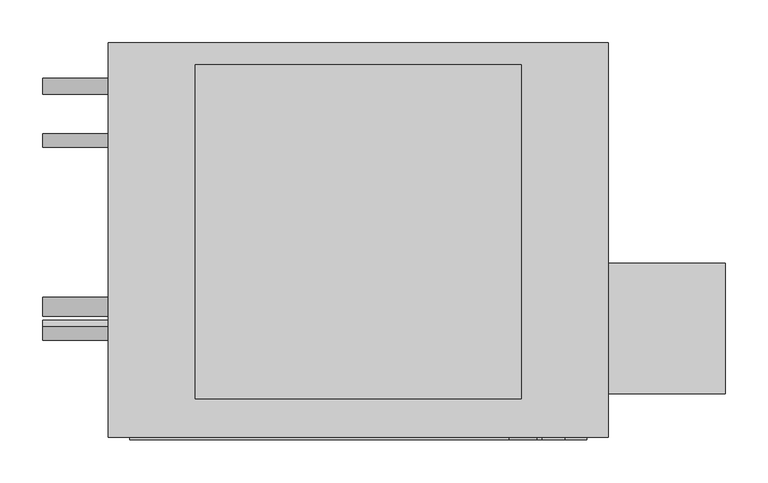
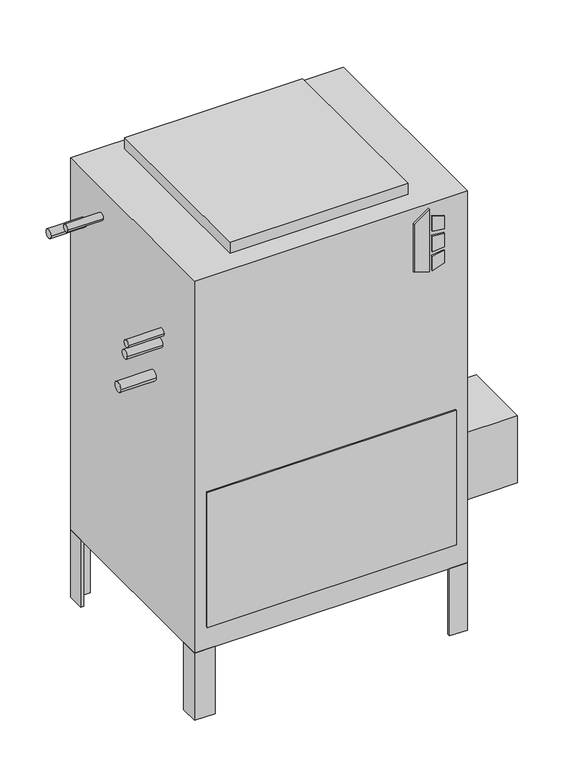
"""IFC4 building model written with IfcOpenShell, lengths in millimetres: proxy geometry, Concealed_High_Capacity_Vertical_Fan_Coil_Unit_-_VEY_-_IEC_-_4-Pipe_LH_2022 : Size 06 - 277v/60Hz/1Ph - 4/2 Coil."""

from ifc_helpers import new_model, si_unit, point, frame, frame_2d, origin, origin_with_axes, place, context, project, spatial, polyline, circle_curve, trimmed, segment, composite_curve, outline, extrude, source, transform, mapped, element, save


def mechanical_equipment_8127be51(model_context):
    return source(origin(), model_context, "Body", "SweptSolid", [
        extrude(outline(polyline([(698.9230703, 328.6868862), (688.975, 360.8602728), (831.1459244, 360.8602728), (808.1239183, 328.6868862), (698.9230703, 328.6868862)])), frame((0.0, -471.4875, 0.0), z_axis=(0.0, 1.0, 0.0), x_axis=(0.0, 0.0, 1.0)), (0.0, 0.0, 1.0), 3.175),
        extrude(outline(polyline([(777.9223557, 367.6186058), (774.7199632, 393.7), (803.9488042, 393.7), (812.0132193, 367.6186058), (777.9223557, 367.6186058)])), frame((0.0, -471.4875, 0.0), z_axis=(0.0, 1.0, 0.0), x_axis=(0.0, 0.0, 1.0)), (0.0, 0.0, 1.0), 3.175),
        extrude(outline(polyline([(726.0588288, 393.7), (722.3933279, 367.6186058), (688.975, 367.6186058), (697.6092372, 393.7), (726.0588288, 393.7)])), frame((0.0, -471.4875, 0.0), z_axis=(0.0, 1.0, 0.0), x_axis=(0.0, 0.0, 1.0)), (0.0, 0.0, 1.0), 3.175),
        extrude(outline(polyline([(765.3739903, 393.7), (767.6558166, 367.6186058), (731.7182681, 367.6186058), (734.4595331, 393.7), (765.3739903, 393.7)])), frame((0.0, -471.4875, 0.0), z_axis=(0.0, 1.0, 0.0), x_axis=(0.0, 0.0, 1.0)), (0.0, 0.0, 1.0), 3.175),
        extrude(outline(polyline([(581.025, -265.1125), (581.025, -417.5125), (444.5, -417.5125), (444.5, -265.1125), (581.025, -265.1125)])), frame((0.0, 0.0, 101.6), z_axis=(0.0, 0.0, 1.0), x_axis=(1.0, 0.0, 0.0)), (0.0, 0.0, 1.0), 152.4),
        extrude(outline(polyline([(444.5, -46.0375), (438.15, -46.0375), (438.15, -14.2875), (406.4, -14.2875), (406.4, -7.9375), (444.5, -7.9375), (444.5, -46.0375)])), frame((0.0, 0.0, -152.4), z_axis=(0.0, 0.0, 1.0), x_axis=(1.0, 0.0, 0.0)), (0.0, 0.0, 1.0), 152.4),
        extrude(outline(polyline([(-101.6, -7.9375), (-101.6, -14.2875), (-133.35, -14.2875), (-133.35, -46.0375), (-139.7, -46.0375), (-139.7, -7.9375), (-101.6, -7.9375)])), frame((0.0, 0.0, -152.4), z_axis=(0.0, 0.0, 1.0), x_axis=(1.0, 0.0, 0.0)), (0.0, 0.0, 1.0), 152.4),
        extrude(outline(polyline([(406.4, -468.3125), (406.4, -461.9625), (438.15, -461.9625), (438.15, -430.2125), (444.5, -430.2125), (444.5, -468.3125), (406.4, -468.3125)])), frame((0.0, 0.0, -152.4), z_axis=(0.0, 0.0, 1.0), x_axis=(1.0, 0.0, 0.0)), (0.0, 0.0, 1.0), 152.4),
        extrude(outline(polyline([(-139.7, -428.1199163), (-133.35, -428.1199163), (-133.35, -461.9625), (-96.2318533, -461.9625), (-96.2318533, -468.3125), (-139.7, -468.3125), (-139.7, -428.1199163)])), frame((0.0, 0.0, -152.4), z_axis=(0.0, 0.0, 1.0), x_axis=(1.0, 0.0, 0.0)), (0.0, 0.0, 1.0), 152.4),
        extrude(outline(polyline([(342.9, -33.3375), (342.9, -423.8625), (-38.1, -423.8625), (-38.1, -33.3375), (342.9, -33.3375)])), frame((0.0, 0.0, 841.375), z_axis=(0.0, 0.0, 1.0), x_axis=(1.0, 0.0, 0.0)), (0.0, 0.0, 1.0), 25.4),
        extrude(outline(polyline([(419.1, -471.4875), (-114.3, -471.4875), (-114.3, -468.3125), (419.1, -468.3125), (419.1, -471.4875)])), frame((0.0, 0.0, 50.8), z_axis=(0.0, 0.0, 1.0), x_axis=(1.0, 0.0, 0.0)), (0.0, 0.0, 1.0), 304.8),
        extrude(outline(composite_curve([segment(trimmed(circle_curve(frame_2d((-122.2375, 777.875)), 7.9375), [point((-130.175, 777.875))], [point((-114.3, 777.875))], False, "CARTESIAN"), True, "CONTINUOUS"), segment(trimmed(circle_curve(frame_2d((-122.2375, 777.875)), 7.9375), [point((-114.3, 777.875))], [point((-130.175, 777.875))], False, "CARTESIAN"), True, "CONTINUOUS")], self_intersect=False)), frame((-215.9, 0.0, 0.0), z_axis=(1.0, 0.0, 0.0), x_axis=(0.0, 1.0, 0.0)), (0.0, 0.0, 1.0), 76.2),
        extrude(outline(composite_curve([segment(trimmed(circle_curve(frame_2d((-347.3848135, 653.2230057)), 7.9375), [point((-355.3223135, 653.2230057))], [point((-339.4473135, 653.2230057))], False, "CARTESIAN"), True, "CONTINUOUS"), segment(trimmed(circle_curve(frame_2d((-347.3848135, 653.2230057)), 7.9375), [point((-339.4473135, 653.2230057))], [point((-355.3223135, 653.2230057))], False, "CARTESIAN"), True, "CONTINUOUS")], self_intersect=False)), frame((-215.9, 0.0, 0.0), z_axis=(1.0, 0.0, 0.0), x_axis=(0.0, 1.0, 0.0)), (0.0, 0.0, 1.0), 76.2),
        extrude(outline(composite_curve([segment(trimmed(circle_curve(frame_2d((-58.7375, 727.075)), 9.525), [point((-68.2625, 727.075))], [point((-49.2125, 727.075))], False, "CARTESIAN"), True, "CONTINUOUS"), segment(trimmed(circle_curve(frame_2d((-58.7375, 727.075)), 9.525), [point((-49.2125, 727.075))], [point((-68.2625, 727.075))], False, "CARTESIAN"), True, "CONTINUOUS")], self_intersect=False)), frame((-215.9, 0.0, 0.0), z_axis=(1.0, 0.0, 0.0), x_axis=(0.0, 1.0, 0.0)), (0.0, 0.0, 1.0), 76.2),
        extrude(outline(composite_curve([segment(trimmed(circle_curve(frame_2d((-341.3125, 625.475)), 9.525), [point((-350.8375, 625.475))], [point((-331.7875, 625.475))], False, "CARTESIAN"), True, "CONTINUOUS"), segment(trimmed(circle_curve(frame_2d((-341.3125, 625.475)), 9.525), [point((-331.7875, 625.475))], [point((-350.8375, 625.475))], False, "CARTESIAN"), True, "CONTINUOUS")], self_intersect=False)), frame((-215.9, 0.0, 0.0), z_axis=(1.0, 0.0, 0.0), x_axis=(0.0, 1.0, 0.0)), (0.0, 0.0, 1.0), 76.2),
        extrude(outline(composite_curve([segment(trimmed(circle_curve(frame_2d((-315.9125, 536.575)), 11.1125), [point((-327.025, 536.575))], [point((-304.8, 536.575))], False, "CARTESIAN"), True, "CONTINUOUS"), segment(trimmed(circle_curve(frame_2d((-315.9125, 536.575)), 11.1125), [point((-304.8, 536.575))], [point((-327.025, 536.575))], False, "CARTESIAN"), True, "CONTINUOUS")], self_intersect=False)), frame((-215.9, 0.0, 0.0), z_axis=(1.0, 0.0, 0.0), x_axis=(0.0, 1.0, 0.0)), (0.0, 0.0, 1.0), 76.2),
        extrude(outline(polyline([(444.5, -7.9375), (444.5, -468.3125), (-139.7, -468.3125), (-139.7, -7.9375), (444.5, -7.9375)])), origin_with_axes(), (0.0, 0.0, 1.0), 841.375),
    ])


if __name__ == "__main__":
    model = new_model("IFC4")
    model_context = context("Model", 3, world=origin())
    ifc_project = project(units=[si_unit("LENGTHUNIT", "METRE", prefix="MILLI")], contexts=[model_context])
    site = spatial("IfcSite", under=ifc_project)
    building = spatial("IfcBuilding", under=site)
    placement = place(None, origin())
    mechanical_equipment_shape = mechanical_equipment_8127be51(model_context)
    element("IfcBuildingElementProxy", 1, Name="Concealed_High_Capacity_Vertical_Fan_Coil_Unit_-_VEY_-_IEC_-_4-Pipe_LH_2022 : Size 06 - 277v/60Hz/1Ph - 4/2 Coil", ObjectType="Concealed_High_Capacity_Vertical_Fan_Coil_Unit_-_VEY_-_IEC_-_4-Pipe_LH_2022 : Size 06 - 277v/60Hz/1Ph - 4/2 Coil", at=placement, inside=building, context=model_context, shape_type="MappedRepresentation", body=[
        mapped(mechanical_equipment_shape, transform((0.0, 0.0, 0.0), x_axis=(1.0, 0.0, 0.0), y_axis=(0.0, 1.0, 0.0), z_axis=(0.0, 0.0, 1.0))),
    ])
    save(model, "model.ifc")
